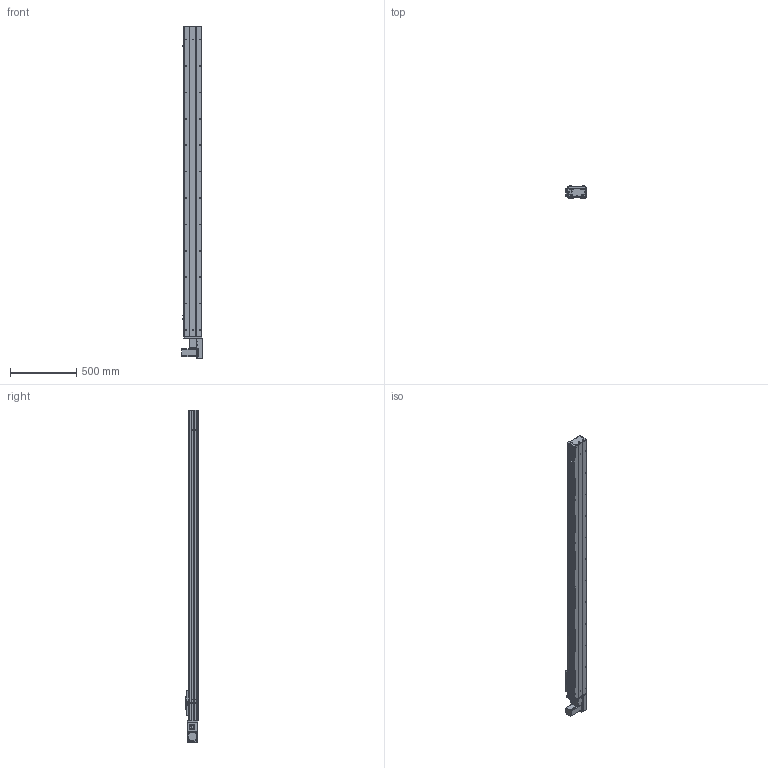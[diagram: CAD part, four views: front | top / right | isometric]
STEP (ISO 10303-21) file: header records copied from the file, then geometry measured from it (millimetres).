
FILE_DESCRIPTION (( 'STEP AP203' ), '1' );
FILE_NAME ('Y135CB-D90-S2050-BL-P400W.STEP', '2020-02-18T01:31:20', ( '微软用户' ), ( '微软中国' ), 'SwSTEP 2.0', 'SolidWorks 2017', '' );
FILE_SCHEMA (( 'CONFIG_CONTROL_DESIGN' ));
Length unit declared in the file: millimetre
Products named in the file (18): Y135C-陔俋离換覜結え-; 0B-源倛裔啣; 5C--俋欶; 0B-萇儂楊擘啣; Y135CB-耜裔; C-雄赽釱--; san松下电机400不带刹车----; 135CB---遴掛极.-; Y135CB-D90-S2050-BL-P400W; 5CB --掛极耜裔啣-; 35CB---喘謫眊楊擘啣; C-詩湍揤踡え-陔; Y10B--々湍喘謫眊--666; 135CB--詩湍-CE; Y10B-耜蚾蟀諉啣----; Y100-135俋离換覜ん--; Y俋欶BR----; 0B-埴倛裔啣
Assembly tree (21 placements, depth 2):
  Y135CB-D90-S2050-BL-P400W
    Y135CB-耜裔
    135CB---遴掛极.-
    35CB---喘謫眊楊擘啣
    Y10B--々湍喘謫眊--666
    Y10B-耜蚾蟀諉啣----
    Y俋欶BR----
    0B-埴倛裔啣
    0B-源倛裔啣
    0B-萇儂楊擘啣
    san松下电机400不带刹车----
    5CB --掛极耜裔啣-  x2
    C-詩湍揤踡え-陔  x2
    135CB--詩湍-CE
    Y100-135俋离換覜ん--  x3
    Y135C-陔俋离換覜結え-
    5C--俋欶
    C-雄赽釱--
Bounding box: 157.5 x 91 x 2514.5 mm (x, y, z)
Volume: 7114116.1 mm3; surface area: 2811947.9 mm2
Topology: 21 solids, 21 shells, 965 faces, 2617 edges, 1734 vertices
Faces by surface type: cylinder 491, plane 458, cone 16
Entity records: 30351 total; most frequent: DIRECTION 5041, CARTESIAN_POINT 5032, ORIENTED_EDGE 4710, EDGE_CURVE 2355, AXIS2_PLACEMENT_3D 1843, VERTEX_POINT 1562, VECTOR 1355, LINE 1355
